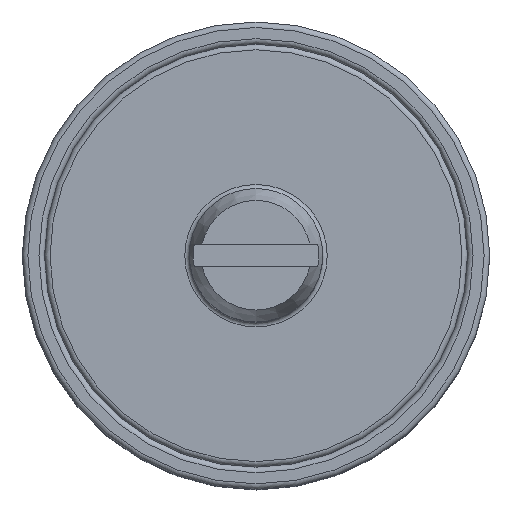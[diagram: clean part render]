
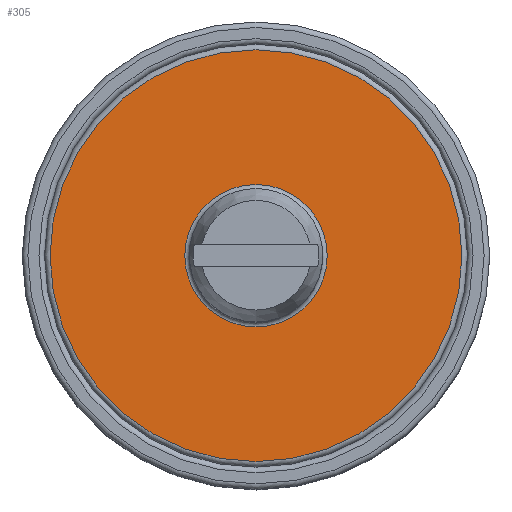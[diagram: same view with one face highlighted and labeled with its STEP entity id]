
A CAD part, top view. The second image highlights one B-rep face of the part: STEP entity #305.
In plain terms, the highlighted planar face has unit normal (0, 0, 1).
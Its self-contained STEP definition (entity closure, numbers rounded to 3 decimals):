
#38=FACE_BOUND('',#122,.T.);
#63=PLANE('',#349);
#84=FACE_OUTER_BOUND('',#121,.T.);
#121=EDGE_LOOP('',(#253));
#122=EDGE_LOOP('',(#254));
#146=CIRCLE('',#348,18.5);
#147=CIRCLE('',#350,6.4);
#171=VERTEX_POINT('',#525);
#172=VERTEX_POINT('',#528);
#200=EDGE_CURVE('',#171,#171,#146,.T.);
#201=EDGE_CURVE('',#172,#172,#147,.T.);
#253=ORIENTED_EDGE('',*,*,#200,.T.);
#254=ORIENTED_EDGE('',*,*,#201,.F.);
#305=ADVANCED_FACE('',(#84,#38),#63,.T.);
#348=AXIS2_PLACEMENT_3D('',#526,#435,#436);
#349=AXIS2_PLACEMENT_3D('',#527,#437,#438);
#350=AXIS2_PLACEMENT_3D('',#529,#439,#440);
#435=DIRECTION('center_axis',(0.,0.,1.));
#436=DIRECTION('ref_axis',(0.,-1.,0.));
#437=DIRECTION('center_axis',(0.,0.,1.));
#438=DIRECTION('ref_axis',(1.,0.,0.));
#439=DIRECTION('center_axis',(0.,0.,1.));
#440=DIRECTION('ref_axis',(0.,-1.,0.));
#525=CARTESIAN_POINT('',(0.,-18.5,0.));
#526=CARTESIAN_POINT('Origin',(0.,0.,0.));
#527=CARTESIAN_POINT('Origin',(0.,-12.45,0.));
#528=CARTESIAN_POINT('',(0.,-6.4,0.));
#529=CARTESIAN_POINT('Origin',(0.,0.,0.));
